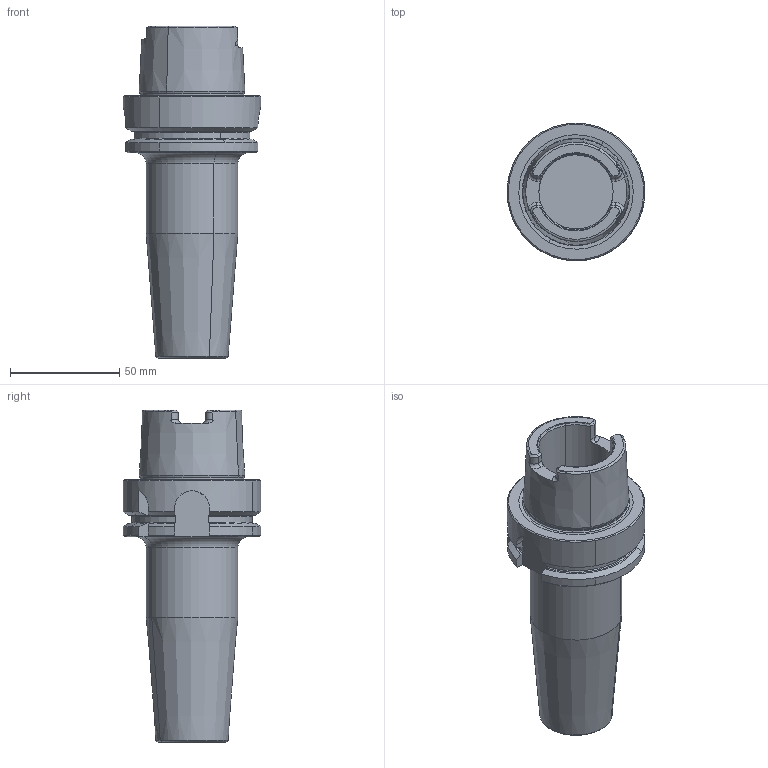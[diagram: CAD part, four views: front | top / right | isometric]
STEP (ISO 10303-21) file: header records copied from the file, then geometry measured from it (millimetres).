
FILE_DESCRIPTION(('CATIA V5 STEP','CAx-IF Rec.Pracs.--- Model Styling and Organization---1.2---2011-12-15'),'2;1');
FILE_NAME('\\nas01\drv1\utils\eitdev\rte\eit\transmagicconvert\db\out\4504029 L.stp','2014-04-01T07:40:53+00:00',('none'),('none'),'CATIA Version 5 Release 21 SP 5 (IN-10)','CATIA V5 STEP AP214','none');
FILE_SCHEMA(('AUTOMOTIVE_DESIGN { 1 0 10303 214 1 1 1 1 }'));
Length unit declared in the file: millimetre
Products named in the file (1): 60796897_0 Holder-Tool HSK A 63 SRKIN 20X120
Bounding box: 62.99 x 63 x 152 mm (x, y, z)
Volume: 204562 mm3; surface area: 31894.6 mm2
Topology: 1 solids, 1 shells, 134 faces, 345 edges, 216 vertices
Faces by surface type: plane 41, cone 33, cylinder 32, torus 28
Entity records: 4161 total; most frequent: CARTESIAN_POINT 1277, ORIENTED_EDGE 690, DIRECTION 426, EDGE_CURVE 345, AXIS2_PLACEMENT_3D 229, VERTEX_POINT 216, CIRCLE 149, EDGE_LOOP 137
